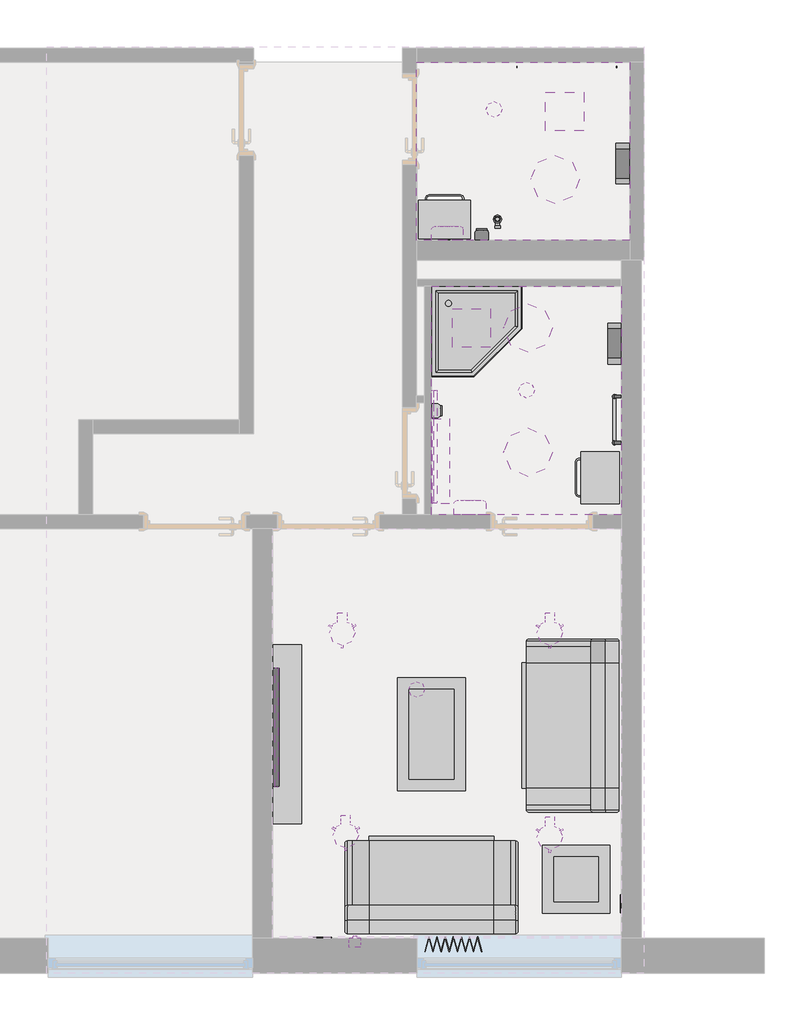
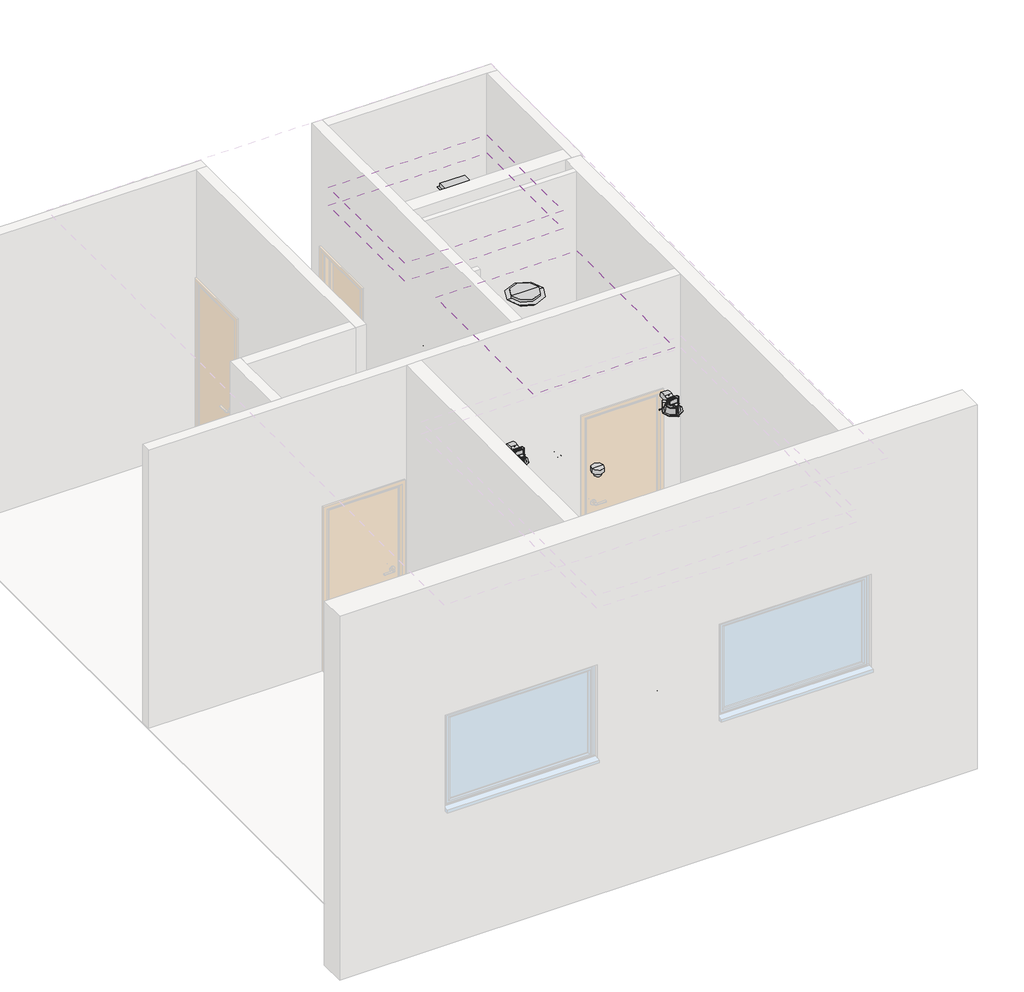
# One storey, part 2 of 2: 26 proxies, 14 furniture elements, 8 light fixtures, 3 alarms, 3 coverings, 2 air terminals, 2 flow terminals, 2 unitary equipment elements, 1 sanitary terminal.
"""IFC4 building model written with IfcOpenShell, lengths in millimetres."""

from ifc_helpers import new_model, si_unit, frame, origin, place, context, project, spatial, polyline, circle_curve, outline, extrude, transform, mapped, element, save
from ifc_brep_helpers import plane_surface, revolved_surface, advanced_brep
from components import exhaust_grille_rectangular_face_square_neck_hosted_standard_7c992ada, smoke_alarm_standard_44dbcd6f, mechanical_equipment_ce166965, bimhealth_electrical_double_socket_v1_type_1_da0f6ee8, bimhealth_electrical_double_socket_v1_type_1_73d2d995, pipe_connector_domestic_cold_water_plumbing_equipment_dafda2e2, plumbing_fixtures_mirror_1000x900mm_83a35165, proxy_deb00d23, type_1_a222ae80, type_3_23f395f6, flow_terminal_fd26ee67, flow_terminal_150_d_glass_shelf_1000_l_150_d_glass_shelf_b8576580, furniture_166ce8d1, furniture_26d36cfe, furniture_c009ef40, furniture_385b3342, furniture_87e55032, furniture_bce425b9, furniture_360x120x360_56d4da83, furniture_table_coffee_2_1000x600x600mm_77ff5865, furniture_table_coffee_2_600x600x600mm_3ebcfe62, light_fixture_298a29b3, light_fixture_790226d0, lighting_fixtures_uplight_strip_1000mm_length_2_8e9ee43d, type_1_79898fc5, unitary_equipment_84d95851, unitary_equipment_126x1500x700_0e61a479

model = new_model("IFC4")

# Units and contexts
model_context = context("Model", 3, world=origin())
ifc_project = project(units=[si_unit("LENGTHUNIT", "METRE", prefix="MILLI")], contexts=[model_context])

# Site, building, storey
site = spatial("IfcSite", under=ifc_project)
building = spatial("IfcBuilding", under=site)
storey = spatial("IfcBuildingStorey", under=building, Name="2-Proposed Alterations Plan", Elevation=0.0)

# Air terminals
placement = place(None, origin())
exhaust_grille_rectangular_face_square_neck_hosted_standard_shape = exhaust_grille_rectangular_face_square_neck_hosted_standard_7c992ada(model_context)
element("IfcAirTerminal", 1, ObjectType="Exhaust Grille - Rectangular Face Square Neck - Hosted : Standard", at=placement, inside=storey, context=model_context, shape_type="MappedRepresentation", body=[
    mapped(exhaust_grille_rectangular_face_square_neck_hosted_standard_shape, transform((8753.7880799, 11589.8737165, 2500.0), x_axis=(1.0, 0.0, 0.0), y_axis=(0.0, -1.0, 0.0), z_axis=(0.0, 0.0, -1.0))),
])
element("IfcAirTerminal", 2, ObjectType="Exhaust Grille - Rectangular Face Square Neck - Hosted : Standard", at=placement, inside=storey, context=model_context, shape_type="MappedRepresentation", body=[
    mapped(exhaust_grille_rectangular_face_square_neck_hosted_standard_shape, transform((7928.7880799, 9676.6237106, 2500.0), x_axis=(1.0, 0.0, 0.0), y_axis=(0.0, -1.0, 0.0), z_axis=(0.0, 0.0, -1.0))),
])

# Alarms
smoke_alarm_standard_shape = smoke_alarm_standard_44dbcd6f(model_context)
element("IfcAlarm", 3, ObjectType="Smoke Alarm : Standard", at=placement, inside=storey, context=model_context, shape_type="MappedRepresentation", body=[
    mapped(smoke_alarm_standard_shape, transform((8128.7880799, 11609.8737165, 2500.0), x_axis=(1.0, 0.0, 0.0), y_axis=(0.0, -1.0, 0.0), z_axis=(0.0, 0.0, -1.0))),
])
element("IfcAlarm", 4, ObjectType="Smoke Alarm : Standard", at=placement, inside=storey, context=model_context, shape_type="MappedRepresentation", body=[
    mapped(smoke_alarm_standard_shape, transform((8415.7880797, 9124.8737074, 2500.0), x_axis=(1.0, 0.0, 0.0), y_axis=(0.0, -1.0, 0.0), z_axis=(0.0, 0.0, -1.0))),
])
element("IfcAlarm", 5, ObjectType="Smoke Alarm : Standard", at=placement, inside=storey, context=model_context, shape_type="MappedRepresentation", body=[
    mapped(smoke_alarm_standard_shape, transform((7443.6565765, 6477.3736929, 2575.0), x_axis=(1.0, 0.0, 0.0), y_axis=(0.0, -1.0, 0.0), z_axis=(0.0, 0.0, -1.0))),
])

# Proxies
mechanical_equipment_shape = mechanical_equipment_ce166965(model_context)
element("IfcBuildingElementProxy", 6, Name="NBS_Hudevad_Tappings : TappingA", ObjectType="NBS_Hudevad_Tappings : TappingA", at=placement, inside=storey, context=model_context, shape_type="MappedRepresentation", body=[
    mapped(mechanical_equipment_shape, transform((6224.7880673, 5341.6433613, 650.0), x_axis=(-1.0000000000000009, 0.0, 0.0), y_axis=(0.0, 0.0, -1.0000000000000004), z_axis=(0.0, -1.0000000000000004, 0.0))),
])
element("IfcBuildingElementProxy", 7, Name="NBS_Hudevad_Tappings : TappingA", ObjectType="NBS_Hudevad_Tappings : TappingA", at=placement, inside=storey, context=model_context, shape_type="MappedRepresentation", body=[
    mapped(mechanical_equipment_shape, transform((8332.7947817, 11985.1950295, 549.1847589), x_axis=(0.0, 1.0, 0.0), y_axis=(0.0, 0.0, -1.0), z_axis=(-1.0, 0.0, 0.0))),
])
element("IfcBuildingElementProxy", 8, Name="NBS_Hudevad_Tappings : TappingB", ObjectType="NBS_Hudevad_Tappings : TappingB", at=placement, inside=storey, context=model_context, shape_type="MappedRepresentation", body=[
    mapped(mechanical_equipment_shape, transform((6224.7880673, 5341.6433613, 50.0), x_axis=(-1.0000000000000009, 0.0, 0.0), y_axis=(0.0, 0.0, -1.0000000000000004), z_axis=(0.0, -1.0000000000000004, 0.0))),
])
element("IfcBuildingElementProxy", 9, Name="NBS_Hudevad_Tappings : TappingB", ObjectType="NBS_Hudevad_Tappings : TappingB", at=placement, inside=storey, context=model_context, shape_type="MappedRepresentation", body=[
    mapped(mechanical_equipment_shape, transform((8332.7947817, 11984.7043073, 50.0080707), x_axis=(0.0, 1.0, 0.0), y_axis=(0.0, 0.0, -1.0), z_axis=(-1.0, 0.0, 0.0))),
])
element("IfcBuildingElementProxy", 10, Name="NBS_Hudevad_Tappings : TappingC", ObjectType="NBS_Hudevad_Tappings : TappingC", at=placement, inside=storey, context=model_context, shape_type="MappedRepresentation", body=[
    mapped(mechanical_equipment_shape, transform((6224.7880673, 6841.6433613, 650.0), x_axis=(-1.0000000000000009, 0.0, 0.0), y_axis=(0.0, 0.0, 1.0000000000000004), z_axis=(0.0, 1.0000000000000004, 0.0))),
])
element("IfcBuildingElementProxy", 11, Name="NBS_Hudevad_Tappings : TappingC", ObjectType="NBS_Hudevad_Tappings : TappingC", at=placement, inside=storey, context=model_context, shape_type="MappedRepresentation", body=[
    mapped(mechanical_equipment_shape, transform((9212.7947817, 11984.8414609, 549.6782708), x_axis=(0.0, 1.0, 0.0), y_axis=(0.0, 0.0, 1.0), z_axis=(1.0, 0.0, 0.0))),
])
element("IfcBuildingElementProxy", 12, Name="NBS_Hudevad_Tappings : TappingD", ObjectType="NBS_Hudevad_Tappings : TappingD", at=placement, inside=storey, context=model_context, shape_type="MappedRepresentation", body=[
    mapped(mechanical_equipment_shape, transform((6224.7880673, 6841.6433613, 50.0), x_axis=(-1.0000000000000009, 0.0, 0.0), y_axis=(0.0, 0.0, 1.0000000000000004), z_axis=(0.0, 1.0000000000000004, 0.0))),
])
element("IfcBuildingElementProxy", 13, Name="NBS_Hudevad_Tappings : TappingD", ObjectType="NBS_Hudevad_Tappings : TappingD", at=placement, inside=storey, context=model_context, shape_type="MappedRepresentation", body=[
    mapped(mechanical_equipment_shape, transform((9212.7947817, 11984.8414609, 49.3193784), x_axis=(0.0, 1.0, 0.0), y_axis=(0.0, 0.0, 1.0), z_axis=(1.0, 0.0, 0.0))),
])
element("IfcBuildingElementProxy", 14, Name="NBS_Hudevad_Tappings : TappingE", ObjectType="NBS_Hudevad_Tappings : TappingE", at=placement, inside=storey, context=model_context, shape_type="MappedRepresentation", body=[
    mapped(mechanical_equipment_shape, transform((6224.7880673, 5391.6433613, 0.0), x_axis=(0.0, -1.0000000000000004, 0.0), y_axis=(-1.0000000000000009, 0.0, 0.0), z_axis=(0.0, 0.0, -1.0000000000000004))),
])
element("IfcBuildingElementProxy", 15, Name="NBS_Hudevad_Tappings : TappingE", ObjectType="NBS_Hudevad_Tappings : TappingE", at=placement, inside=storey, context=model_context, shape_type="MappedRepresentation", body=[
    mapped(mechanical_equipment_shape, transform((8372.7947817, 11984.9237231, 0.0), x_axis=(-1.0, 0.0, 0.0), y_axis=(0.0, 1.0, 0.0), z_axis=(0.0, 0.0, -1.0))),
])
element("IfcBuildingElementProxy", 16, Name="NBS_Hudevad_Tappings : TappingE2", ObjectType="NBS_Hudevad_Tappings : TappingE2", at=placement, inside=storey, context=model_context, shape_type="MappedRepresentation", body=[
    mapped(mechanical_equipment_shape, transform((6224.7880673, 5441.6433613, 0.0), x_axis=(0.0, -1.0000000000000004, 0.0), y_axis=(-1.0000000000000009, 0.0, 0.0), z_axis=(0.0, 0.0, -1.0000000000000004))),
])
element("IfcBuildingElementProxy", 17, Name="NBS_Hudevad_Tappings : TappingE2", ObjectType="NBS_Hudevad_Tappings : TappingE2", at=placement, inside=storey, context=model_context, shape_type="MappedRepresentation", body=[
    mapped(mechanical_equipment_shape, transform((8422.7947817, 11984.9237231, 0.0), x_axis=(-1.0, 0.0, 0.0), y_axis=(0.0, 1.0, 0.0), z_axis=(0.0, 0.0, -1.0))),
])
element("IfcBuildingElementProxy", 18, Name="NBS_Hudevad_Tappings : TappingF", ObjectType="NBS_Hudevad_Tappings : TappingF", at=placement, inside=storey, context=model_context, shape_type="MappedRepresentation", body=[
    mapped(mechanical_equipment_shape, transform((6224.7880673, 5691.6433613, 0.0), x_axis=(0.0, -1.0000000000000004, 0.0), y_axis=(-1.0000000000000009, 0.0, 0.0), z_axis=(0.0, 0.0, -1.0000000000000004))),
])
element("IfcBuildingElementProxy", 19, Name="NBS_Hudevad_Tappings : TappingF", ObjectType="NBS_Hudevad_Tappings : TappingF", at=placement, inside=storey, context=model_context, shape_type="MappedRepresentation", body=[
    mapped(mechanical_equipment_shape, transform((9172.7947817, 11984.9237231, 0.0), x_axis=(-1.0, 0.0, 0.0), y_axis=(0.0, 1.0, 0.0), z_axis=(0.0, 0.0, -1.0))),
])
element("IfcBuildingElementProxy", 20, Name="NBS_Hudevad_Tappings : TappingF2", ObjectType="NBS_Hudevad_Tappings : TappingF2", at=placement, inside=storey, context=model_context, shape_type="MappedRepresentation", body=[
    mapped(mechanical_equipment_shape, transform((6224.7880673, 6741.6433613, 0.0), x_axis=(0.0, -1.0000000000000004, 0.0), y_axis=(-1.0000000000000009, 0.0, 0.0), z_axis=(0.0, 0.0, -1.0000000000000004))),
])
element("IfcBuildingElementProxy", 21, Name="NBS_Hudevad_Tappings : TappingF2", ObjectType="NBS_Hudevad_Tappings : TappingF2", at=placement, inside=storey, context=model_context, shape_type="MappedRepresentation", body=[
    mapped(mechanical_equipment_shape, transform((9122.7947817, 11984.9237231, 0.0), x_axis=(-1.0, 0.0, 0.0), y_axis=(0.0, 1.0, 0.0), z_axis=(0.0, 0.0, -1.0))),
])
bimhealth_electrical_double_socket_v1_type_1_shape = bimhealth_electrical_double_socket_v1_type_1_da0f6ee8(model_context)
element("IfcBuildingElementProxy", 22, Name="BIMHealth-Electrical-Double_Socket-v1 : Type 1", ObjectType="BIMHealth-Electrical-Double_Socket-v1 : Type 1", at=placement, inside=storey, context=model_context, shape_type="MappedRepresentation", body=[
    mapped(bimhealth_electrical_double_socket_v1_type_1_shape, transform((6079.2880673, 5999.8737074, 610.0), x_axis=(0.0, -1.0, 0.0), y_axis=(1.0, 0.0, 0.0), z_axis=(0.0, 0.0, 1.0))),
])
element("IfcBuildingElementProxy", 23, Name="BIMHealth-Electrical-Double_Socket-v1 : Type 1", ObjectType="BIMHealth-Electrical-Double_Socket-v1 : Type 1", at=placement, inside=storey, context=model_context, shape_type="MappedRepresentation", body=[
    mapped(bimhealth_electrical_double_socket_v1_type_1_shape, transform((6079.2880673, 6207.3736929, 605.0), x_axis=(0.0, -1.0, 0.0), y_axis=(1.0, 0.0, 0.0), z_axis=(0.0, 0.0, 1.0))),
])
bimhealth_electrical_double_socket_v1_type_1_2_shape = bimhealth_electrical_double_socket_v1_type_1_73d2d995(model_context)
element("IfcBuildingElementProxy", 24, Name="BIMHealth-Electrical-Double_Socket-v1 : Type 1", ObjectType="BIMHealth-Electrical-Double_Socket-v1 : Type 1", at=placement, inside=storey, context=model_context, shape_type="MappedRepresentation", body=[
    mapped(bimhealth_electrical_double_socket_v1_type_1_2_shape, transform((6406.7880673, 4122.3736929, 0.0), x_axis=(1.0, 0.0, 0.0), y_axis=(0.0, 1.0, 0.0), z_axis=(0.0, 0.0, 1.0))),
])
element("IfcBuildingElementProxy", 25, Name="BIMHealth-Electrical-Double_Socket-v1 : Type 1", ObjectType="BIMHealth-Electrical-Double_Socket-v1 : Type 1", at=placement, inside=storey, context=model_context, shape_type="MappedRepresentation", body=[
    mapped(bimhealth_electrical_double_socket_v1_type_1_shape, transform((9343.2880797, 4377.3736929, 0.0), x_axis=(0.0, 1.0, 0.0), y_axis=(-1.0, 0.0, 0.0), z_axis=(0.0, 0.0, 1.0))),
])
pipe_connector_domestic_cold_water_plumbing_equipment_shape = pipe_connector_domestic_cold_water_plumbing_equipment_dafda2e2(model_context)
element("IfcBuildingElementProxy", 26, Name="Pipe Connector - Domestic Cold Water - Plumbing Equipment : Standard", ObjectType="Pipe Connector - Domestic Cold Water - Plumbing Equipment : Standard", at=placement, inside=storey, context=model_context, shape_type="MappedRepresentation", body=[
    mapped(pipe_connector_domestic_cold_water_plumbing_equipment_shape, transform((7803.6565765, 10449.8737165, 200.0), x_axis=(-1.0, 0.0, 0.0), y_axis=(0.0, 0.0, 1.0), z_axis=(0.0, 1.0, 0.0))),
])
element("IfcBuildingElementProxy", 27, Name="Pipe Connector - Domestic Cold Water - Plumbing Equipment : Standard", ObjectType="Pipe Connector - Domestic Cold Water - Plumbing Equipment : Standard", at=placement, inside=storey, context=model_context, shape_type="MappedRepresentation", body=[
    mapped(pipe_connector_domestic_cold_water_plumbing_equipment_shape, transform((7723.6565765, 10449.8737165, 200.0), x_axis=(-1.0, 0.0, 0.0), y_axis=(0.0, 0.0, 1.0), z_axis=(0.0, 1.0, 0.0))),
])
plumbing_fixtures_mirror_1000x900mm_shape = plumbing_fixtures_mirror_1000x900mm_83a35165(model_context)
element("IfcBuildingElementProxy", 28, Name="Plumbing_Fixtures_Mirror : 1000x900mm", ObjectType="Plumbing_Fixtures_Mirror : 1000x900mm", at=placement, inside=storey, context=model_context, shape_type="MappedRepresentation", body=[
    mapped(plumbing_fixtures_mirror_1000x900mm_shape, transform((7543.6565765, 8600.4034064, 0.0), x_axis=(0.0, 1.0, 0.0), y_axis=(-1.0, 0.0, 0.0), z_axis=(0.0, 0.0, 1.0))),
])
proxy_shape = proxy_deb00d23(model_context)
element("IfcBuildingElementProxy", 29, Name="TV Screen wall mounted 32\":TV Screen wall mounted 32\":407438 : TV Screen wall mounted 32\":TV Screen wall mounted 32\":407438", ObjectType="TV Screen wall mounted 32\":TV Screen wall mounted 32\":407438 : TV Screen wall mounted 32\":TV Screen wall mounted 32\":407438", at=placement, inside=storey, context=model_context, shape_type="MappedRepresentation", body=[
    mapped(proxy_shape, transform((8.3311228, 259.8178839, 0.0), x_axis=(1.0, 0.0, 0.0), y_axis=(0.0, 1.0, 0.0), z_axis=(0.0, 0.0, 1.0))),
])
type_1_shape = type_1_a222ae80(model_context)
element("IfcBuildingElementProxy", 30, Name="BIMHealth-Electrical-Emergency_Button-LOD2A-v1 : Type 1", ObjectType="BIMHealth-Electrical-Emergency_Button-LOD2A-v1 : Type 1", at=placement, inside=storey, context=model_context, shape_type="MappedRepresentation", body=[
    mapped(type_1_shape, transform((6770.7880797, 4122.3736929, 0.0), x_axis=(1.0, 0.0, 0.0), y_axis=(0.0, 1.0, 0.0), z_axis=(0.0, 0.0, 1.0))),
])
type_3_shape = type_3_23f395f6(model_context)
element("IfcBuildingElementProxy", 31, Name="BHMS-Bed_Head_Services-LOD2A-v1.0001 : Type 3", ObjectType="BHMS-Bed_Head_Services-LOD2A-v1.0001 : Type 3", at=placement, inside=storey, context=model_context, shape_type="MappedRepresentation", body=[
    mapped(type_3_shape, transform((6079.2880673, 3933.6070272, -145.0), x_axis=(0.0, -1.0, 0.0), y_axis=(1.0, 0.0, 0.0), z_axis=(0.0, 0.0, 1.0))),
])

# Coverings
element("IfcCovering", 32, ObjectType="Asbestos Ceiling Tiles", at=placement, inside=storey, context=model_context, shape_type="SweptSolid", body=[
    extrude(outline(polyline([(9328.7880799, 10449.8737165), (7443.6565765, 10449.8737165), (7443.6565765, 12027.8737231), (9328.7880799, 12027.8737231), (9328.7880799, 10449.8737165)])), frame((0.0, 0.0, 2727.0), z_axis=(0.0, 0.0, 1.0), x_axis=(1.0, 0.0, 0.0)), (0.0, 0.0, 1.0), 57.0),
])
element("IfcCovering", 33, ObjectType="600x600mm_Grid", at=placement, inside=storey, context=model_context, shape_type="AdvancedBrep", body=[
    advanced_brep(
    [(9328.7880799, 12027.8737231, 2552.0), (7443.6565765, 12027.8737231, 2552.0), (7443.6565765, 10449.8737165, 2552.0), (9328.7880799, 10449.8737165, 2552.0), (7443.6565765, 12027.8737231, 2500.0), (9328.7880799, 12027.8737231, 2500.0), (9328.7880799, 10449.8737165, 2500.0), (7443.6565765, 10449.8737165, 2500.0), (7649.7873196, 11349.8732953, 2500.0), (7607.7873196, 11349.8732953, 2500.0), (7607.7873196, 11349.8732953, 2536.0), (7649.7873196, 11349.8732953, 2536.0)],
    [
        (0, 1),
        (1, 2),
        (2, 3),
        (3, 0),
        (4, 5),
        (5, 6),
        (6, 7),
        (7, 4),
        (8, 9, circle_curve(frame((7628.7873196, 11349.8732953, 2500.0), z_axis=(0.0, 0.0, 1.0), x_axis=(1.0, 0.0, 0.0)), 21.0)),
        (9, 8, circle_curve(frame((7628.7873196, 11349.8732953, 2500.0), z_axis=(0.0, 0.0, 1.0), x_axis=(1.0, 0.0, 0.0)), 21.0)),
        (0, 5),
        (4, 1),
        (7, 2),
        (6, 3),
        (10, 11, circle_curve(frame((7628.7873196, 11349.8732953, 2536.0), z_axis=(0.0, 0.0, -1.0), x_axis=(1.0, 0.0, 0.0)), 21.0)),
        (11, 10, circle_curve(frame((7628.7873196, 11349.8732953, 2536.0), z_axis=(0.0, 0.0, -1.0), x_axis=(1.0, 0.0, 0.0)), 21.0)),
        (10, 9),
        (8, 11),
    ],
    [
        plane_surface(frame((7443.6565765, 12027.8737231, 2552.0), z_axis=(0.0, 0.0, 1.0), x_axis=(-1.0, 0.0, 0.0))),
        plane_surface(frame((7443.6565765, 12027.8737231, 2500.0), z_axis=(0.0, 0.0, -1.0), x_axis=(1.0, 0.0, 0.0))),
        plane_surface(frame((9328.7880799, 12027.8737231, 2552.0), z_axis=(0.0, 1.0, 0.0), x_axis=(0.0, 0.0, -1.0))),
        plane_surface(frame((7443.6565765, 12027.8737231, 2552.0), z_axis=(-1.0, 0.0, 0.0), x_axis=(0.0, 0.0, -1.0))),
        plane_surface(frame((7443.6565765, 10449.8737165, 2552.0), z_axis=(0.0, -1.0, 0.0), x_axis=(0.0, 0.0, -1.0))),
        plane_surface(frame((9328.7880799, 10449.8737165, 2552.0), z_axis=(1.0, 0.0, 0.0), x_axis=(0.0, 0.0, -1.0))),
        plane_surface(frame((7649.7873196, 11349.8732953, 2536.0), z_axis=(0.0, 0.0, -1.0), x_axis=(0.0, 1.0, 0.0))),
        revolved_surface(polyline([(7649.7873196, 11349.8732953, 2500.0), (7649.7873196, 11349.8732953, 2536.0)]), (7628.7873196, 11349.8732953, 2536.0), (0.0, 0.0, -1.0)),
    ],
    [
        (0, [[1, 2, 3, 4]]),
        (1, [[5, 6, 7, 8], [9, 10]]),
        (2, [[-1, 11, -5, 12]]),
        (3, [[-2, -12, -8, 13]]),
        (4, [[-3, -13, -7, 14]]),
        (5, [[-4, -14, -6, -11]]),
        (6, [[15, 16]]),
        (7, [[-15, 17, -9, 18]]),
        (7, [[-16, -18, -10, -17]]),
    ],
),
])
element("IfcCovering", 34, ObjectType="Plain", at=placement, inside=storey, context=model_context, shape_type="AdvancedBrep", body=[
    advanced_brep(
    [(9255.7880797, 10043.6237165, 2557.0), (7574.9065765, 10043.6237165, 2557.0), (7574.9065765, 8024.8737074, 2557.0), (9255.7880797, 8024.8737074, 2557.0), (7574.9065765, 10043.6237165, 2500.0), (9255.7880797, 10043.6237165, 2500.0), (9255.7880797, 8024.8737074, 2500.0), (7574.9065765, 8024.8737074, 2500.0), (8435.8958993, 8121.9862129, 2500.0), (8393.8958993, 8121.9862129, 2500.0), (8393.8958993, 8121.9862129, 2536.0), (8435.8958993, 8121.9862129, 2536.0)],
    [
        (0, 1),
        (1, 2),
        (2, 3),
        (3, 0),
        (4, 5),
        (5, 6),
        (6, 7),
        (7, 4),
        (8, 9, circle_curve(frame((8414.8958993, 8121.9862129, 2500.0), z_axis=(0.0, 0.0, 1.0), x_axis=(1.0, 0.0, 0.0)), 21.0)),
        (9, 8, circle_curve(frame((8414.8958993, 8121.9862129, 2500.0), z_axis=(0.0, 0.0, 1.0), x_axis=(1.0, 0.0, 0.0)), 21.0)),
        (0, 5),
        (4, 1),
        (7, 2),
        (6, 3),
        (10, 11, circle_curve(frame((8414.8958993, 8121.9862129, 2536.0), z_axis=(0.0, 0.0, -1.0), x_axis=(1.0, 0.0, 0.0)), 21.0)),
        (11, 10, circle_curve(frame((8414.8958993, 8121.9862129, 2536.0), z_axis=(0.0, 0.0, -1.0), x_axis=(1.0, 0.0, 0.0)), 21.0)),
        (10, 9),
        (8, 11),
    ],
    [
        plane_surface(frame((7381.1565765, 10043.6237165, 2557.0), z_axis=(0.0, 0.0, 1.0), x_axis=(-1.0, 0.0, 0.0))),
        plane_surface(frame((7381.1565765, 10043.6237165, 2500.0), z_axis=(0.0, 0.0, -1.0), x_axis=(1.0, 0.0, 0.0))),
        plane_surface(frame((9255.7880797, 10043.6237165, 2557.0), z_axis=(0.0, 1.0, 0.0), x_axis=(0.0, 0.0, -1.0))),
        plane_surface(frame((7574.9065765, 10043.6237165, 2557.0), z_axis=(-1.0, 0.0, 0.0), x_axis=(0.0, 0.0, -1.0))),
        plane_surface(frame((7574.9065765, 8024.8737074, 2557.0), z_axis=(0.0, -1.0, 0.0), x_axis=(0.0, 0.0, -1.0))),
        plane_surface(frame((9255.7880797, 8024.8737074, 2557.0), z_axis=(1.0, 0.0, 0.0), x_axis=(0.0, 0.0, -1.0))),
        plane_surface(frame((8435.8958993, 8121.9862129, 2536.0), z_axis=(0.0, 0.0, -1.0), x_axis=(0.0, 1.0, 0.0))),
        revolved_surface(polyline([(8435.8958993, 8121.9862129, 2500.0), (8435.8958993, 8121.9862129, 2536.0)]), (8414.8958993, 8121.9862129, 2536.0), (0.0, 0.0, -1.0)),
    ],
    [
        (0, [[1, 2, 3, 4]]),
        (1, [[5, 6, 7, 8], [9, 10]]),
        (2, [[-1, 11, -5, 12]]),
        (3, [[-2, -12, -8, 13]]),
        (4, [[-3, -13, -7, 14]]),
        (5, [[-4, -14, -6, -11]]),
        (6, [[15, 16]]),
        (7, [[-15, 17, -9, 18]]),
        (7, [[-16, -18, -10, -17]]),
    ],
),
])

# Flow terminals
flow_terminal_shape = flow_terminal_fd26ee67(model_context)
element("IfcFlowTerminal", 35, ObjectType="ASH_BottleTrap_MultiProduct_BIM_GB_S8910;S8920 : S892067 Trap 1¼\" plastic resealing bottle, 75mm seal, multi-purpose outlet", at=placement, inside=storey, context=model_context, shape_type="MappedRepresentation", body=[
    mapped(flow_terminal_shape, transform((8159.5640842, 10639.8737165, 625.0), x_axis=(-1.0, 0.0, 0.0), y_axis=(0.0, 1.0, 0.0), z_axis=(0.0, 0.0, -1.0))),
])
flow_terminal_150_d_glass_shelf_1000_l_150_d_glass_shelf_shape = flow_terminal_150_d_glass_shelf_1000_l_150_d_glass_shelf_b8576580(model_context)
element("IfcFlowTerminal", 36, ObjectType="150 d glass shelf 1000 L : 150 d glass shelf 1000 L", at=placement, inside=storey, context=model_context, shape_type="MappedRepresentation", body=[
    mapped(flow_terminal_150_d_glass_shelf_1000_l_150_d_glass_shelf_shape, transform((0.0, 0.0, 0.0), x_axis=(1.0, 0.0, 0.0), y_axis=(0.0, 1.0, 0.0), z_axis=(0.0, 0.0, 1.0))),
])

# Furniture
furniture_shape = furniture_166ce8d1(model_context)
element("IfcFurniture", 37, ObjectType="BIMHealth-Paper_Towel_Dispenser-LOD2A-v1 : BIMHealth-Paper_Towel_Dispenser-LOD2A-v1", at=placement, inside=storey, context=model_context, shape_type="MappedRepresentation", body=[
    mapped(furniture_shape, transform((7854.9065765, 10449.8737165, 100.0), x_axis=(-1.0000000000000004, 0.0, 0.0), y_axis=(0.0, -1.0000000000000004, 0.0), z_axis=(0.0, 0.0, 1.0))),
])
element("IfcFurniture", 38, ObjectType="BIMHealth-Paper_Towel_Dispenser-LOD2A-v1 : BIMHealth-Paper_Towel_Dispenser-LOD2A-v1", at=placement, inside=storey, context=model_context, shape_type="MappedRepresentation", body=[
    mapped(furniture_shape, transform((8054.9065765, 8024.8737074, 100.0), x_axis=(-1.0000000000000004, 0.0, 0.0), y_axis=(0.0, -1.0000000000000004, 0.0), z_axis=(0.0, 0.0, 1.0))),
])
furniture_2_shape = furniture_26d36cfe(model_context)
element("IfcFurniture", 39, ObjectType="BIMHealth-Soap_Dispenser-LOD2A-v1 : BIMHealth-Soap_Dispenser-LOD2A-v1", at=placement, inside=storey, context=model_context, shape_type="MappedRepresentation", body=[
    mapped(furniture_2_shape, transform((8079.5640842, 10449.8737165, -200.0), x_axis=(-1.0, 0.0, 0.0), y_axis=(0.0, -1.0, 0.0), z_axis=(0.0, 0.0, 1.0))),
])
element("IfcFurniture", 40, ObjectType="BIMHealth-Soap_Dispenser-LOD2A-v1 : BIMHealth-Soap_Dispenser-LOD2A-v1", at=placement, inside=storey, context=model_context, shape_type="MappedRepresentation", body=[
    mapped(furniture_2_shape, transform((7562.4065765, 8883.6237165, -230.0), x_axis=(0.0, 1.0, 0.0), y_axis=(-1.0, 0.0, 0.0), z_axis=(0.0, 0.0, 1.0))),
])
furniture_3_shape = furniture_c009ef40(model_context)
element("IfcFurniture", 41, ObjectType="BIMHealth-Bin_Clinical_Foot_Operated-LOD2A-v1:BIMHealth-Bin_Clinical_Foot_Operated-LOD2A-v1:404955 : BIMHealth-Bin_Clinical_Foot_Operated-LOD2A-v1:BIMHealth-Bin_Clinical_Foot_Operated-LOD2A-v1:404955", at=placement, inside=storey, context=model_context, shape_type="MappedRepresentation", body=[
    mapped(furniture_3_shape, transform((18451.6068057, 2984.6546371, 0.0), x_axis=(0.0, 1.0, 0.0), y_axis=(-1.0, 0.0, 0.0), z_axis=(0.0, 0.0, 1.0))),
])
element("IfcFurniture", 42, ObjectType="BIMHealth-Bin_Clinical_Foot_Operated-LOD2A-v1:BIMHealth-Bin_Clinical_Foot_Operated-LOD2A-v1:1 : BIMHealth-Bin_Clinical_Foot_Operated-LOD2A-v1:BIMHealth-Bin_Clinical_Foot_Operated-LOD2A-v1:404955", at=placement, inside=storey, context=model_context, shape_type="MappedRepresentation", body=[
    mapped(furniture_3_shape, transform((16716.9206845, 19112.5330763, 0.0), x_axis=(-1.0000000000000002, 0.0, 0.0), y_axis=(0.0, -1.0000000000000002, 0.0), z_axis=(0.0, 0.0, 1.0))),
])
furniture_4_shape = furniture_385b3342(model_context)
element("IfcFurniture", 43, ObjectType="NBS_PineappleContracts_DmstcChrs_Magna2SeaterSofa : NBS_PineappleContracts_DomesticChairs_Magna2SeaterSofa", at=placement, inside=storey, context=model_context, shape_type="MappedRepresentation", body=[
    mapped(furniture_4_shape, transform((8375.7880797, 6157.3736929, 0.0), x_axis=(0.0, -1.0000000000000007, 0.0), y_axis=(1.0000000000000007, 0.0, 0.0), z_axis=(0.0, 0.0, 1.0))),
])
element("IfcFurniture", 44, ObjectType="NBS_PineappleContracts_DmstcChrs_Magna2SeaterSofa : NBS_PineappleContracts_DomesticChairs_Magna2SeaterSofa", at=placement, inside=storey, context=model_context, shape_type="MappedRepresentation", body=[
    mapped(furniture_4_shape, transform((7574.9065765, 5177.3736929, 0.0), x_axis=(-1.0000000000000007, 0.0, 0.0), y_axis=(0.0, -1.0000000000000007, 0.0), z_axis=(0.0, 0.0, 1.0))),
])
furniture_5_shape = furniture_87e55032(model_context)
element("IfcFurniture", 45, ObjectType="Rad timber cover : Rad timber cover", at=placement, inside=storey, context=model_context, shape_type="MappedRepresentation", body=[
    mapped(furniture_5_shape, transform((0.0, 0.0, 0.0), x_axis=(1.0, 0.0, 0.0), y_axis=(0.0, 1.0, 0.0), z_axis=(0.0, 0.0, 1.0))),
])
furniture_6_shape = furniture_bce425b9(model_context)
element("IfcFurniture", 46, ObjectType="BIMHealth-Curtain_Bed-LOD2A-v1 : BIMHealth-Curtain_Bed-LOD2A-v1", at=placement, inside=storey, context=model_context, shape_type="MappedRepresentation", body=[
    mapped(furniture_6_shape, transform((7515.7880797, 4201.3736929, 960.0), x_axis=(1.0, 0.0, 0.0), y_axis=(0.0, 1.0, 0.0), z_axis=(0.0, 0.0, 1.0))),
])
furniture_360x120x360_shape = furniture_360x120x360_56d4da83(model_context)
element("IfcFurniture", 47, ObjectType="nbl_SanitaryAccessory_Dispenser-Toilet-Roll-Large-1.1 : 360x120x360", at=placement, inside=storey, context=model_context, shape_type="MappedRepresentation", body=[
    mapped(furniture_360x120x360_shape, transform((9268.7880799, 11131.8737165, 0.0), x_axis=(0.0, -1.0000000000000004, 0.0), y_axis=(1.0000000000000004, 0.0, 0.0), z_axis=(0.0, 0.0, 1.0))),
])
element("IfcFurniture", 48, ObjectType="nbl_SanitaryAccessory_Dispenser-Toilet-Roll-Large-1.1 : 360x120x360", at=placement, inside=storey, context=model_context, shape_type="MappedRepresentation", body=[
    mapped(furniture_360x120x360_shape, transform((9195.7880797, 9536.6237106, 0.0), x_axis=(0.0, -1.0, 0.0), y_axis=(1.0, 0.0, 0.0), z_axis=(0.0, 0.0, 1.0))),
])
furniture_table_coffee_2_1000x600x600mm_shape = furniture_table_coffee_2_1000x600x600mm_77ff5865(model_context)
element("IfcFurniture", 49, ObjectType="Furniture_Table_Coffee_2 : 1000x600x600mm", at=placement, inside=storey, context=model_context, shape_type="MappedRepresentation", body=[
    mapped(furniture_table_coffee_2_1000x600x600mm_shape, transform((7670.1176543, 6061.6079408, 0.0), x_axis=(0.0, 1.0, 0.0), y_axis=(-1.0, 0.0, 0.0), z_axis=(0.0, 0.0, 1.0))),
])
furniture_table_coffee_2_600x600x600mm_shape = furniture_table_coffee_2_600x600x600mm_3ebcfe62(model_context)
element("IfcFurniture", 50, ObjectType="Furniture_Table_Coffee_2 : 600x600x600mm", at=placement, inside=storey, context=model_context, shape_type="MappedRepresentation", body=[
    mapped(furniture_table_coffee_2_600x600x600mm_shape, transform((8837.522313, 4704.6626296, 0.0), x_axis=(1.0, 0.0, 0.0), y_axis=(0.0, 1.0, 0.0), z_axis=(0.0, 0.0, 1.0))),
])

# Light fixtures
light_fixture_shape = light_fixture_298a29b3(model_context)
element("IfcLightFixture", 51, ObjectType="Comtec LED : Comtec LED", at=placement, inside=storey, context=model_context, shape_type="MappedRepresentation", body=[
    mapped(light_fixture_shape, transform((6785.2926871, 6977.3736929, 2575.0), x_axis=(1.0, 0.0, 0.0), y_axis=(0.0, -1.0, 0.0), z_axis=(0.0, 0.0, -1.0))),
])
element("IfcLightFixture", 52, ObjectType="Comtec LED : Comtec LED", at=placement, inside=storey, context=model_context, shape_type="MappedRepresentation", body=[
    mapped(light_fixture_shape, transform((8622.7740581, 5169.8138539, 2575.0), x_axis=(1.0, 0.0, 0.0), y_axis=(0.0, -1.0, 0.0), z_axis=(0.0, 0.0, -1.0))),
])
element("IfcLightFixture", 53, ObjectType="Comtec LED : Comtec LED", at=placement, inside=storey, context=model_context, shape_type="MappedRepresentation", body=[
    mapped(light_fixture_shape, transform((8622.7740581, 6977.3736929, 2575.0), x_axis=(1.0, 0.0, 0.0), y_axis=(0.0, -1.0, 0.0), z_axis=(0.0, 0.0, -1.0))),
])
element("IfcLightFixture", 54, ObjectType="Comtec LED : Comtec LED", at=placement, inside=storey, context=model_context, shape_type="MappedRepresentation", body=[
    mapped(light_fixture_shape, transform((6815.799905, 5186.6525362, 2575.0), x_axis=(1.0, 0.0, 0.0), y_axis=(0.0, -1.0, 0.0), z_axis=(0.0, 0.0, -1.0))),
])
light_fixture_2_shape = light_fixture_790226d0(model_context)
element("IfcLightFixture", 55, ObjectType="AMED HALO : AMEDH128 HF", at=placement, inside=storey, context=model_context, shape_type="MappedRepresentation", body=[
    mapped(light_fixture_2_shape, transform((8668.7880799, 10989.8737165, 2500.0), x_axis=(1.0, 0.0, 0.0), y_axis=(0.0, -1.0, 0.0), z_axis=(0.0, 0.0, -1.0))),
])
element("IfcLightFixture", 56, ObjectType="AMED HALO : AMEDH128 HF", at=placement, inside=storey, context=model_context, shape_type="MappedRepresentation", body=[
    mapped(light_fixture_2_shape, transform((8428.7880799, 8576.6237106, 2500.0), x_axis=(1.0, 0.0, 0.0), y_axis=(0.0, -1.0, 0.0), z_axis=(0.0, 0.0, -1.0))),
])
element("IfcLightFixture", 57, ObjectType="AMED HALO : AMEDH128 HF", at=placement, inside=storey, context=model_context, shape_type="MappedRepresentation", body=[
    mapped(light_fixture_2_shape, transform((8428.7880799, 9676.5938002, 2500.0), x_axis=(1.0, 0.0, 0.0), y_axis=(0.0, -1.0, 0.0), z_axis=(0.0, 0.0, -1.0))),
])
lighting_fixtures_uplight_strip_1000mm_length_2_shape = lighting_fixtures_uplight_strip_1000mm_length_2_8e9ee43d(model_context)
element("IfcLightFixture", 58, ObjectType="Lighting_Fixtures_Uplight_Strip : 1000mm_Length 2", at=placement, inside=storey, context=model_context, shape_type="MappedRepresentation", body=[
    mapped(lighting_fixtures_uplight_strip_1000mm_length_2_shape, transform((7608.6565765, 8622.8737231, 102.0), x_axis=(0.0, 1.0000000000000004, 0.0), y_axis=(-1.0000000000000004, 0.0, 0.0), z_axis=(0.0, 0.0, 1.0))),
])

# Sanitary terminal
type_1_2_shape = type_1_79898fc5(model_context)
element("IfcSanitaryTerminal", 59, ObjectType="nbl_Shower_Pntngl-1.1 : Type 1", at=placement, inside=storey, context=model_context, shape_type="MappedRepresentation", body=[
    mapped(type_1_2_shape, transform((7974.9065765, 9643.6237165, 0.0), x_axis=(1.0, 0.0, 0.0), y_axis=(0.0, 1.0, 0.0), z_axis=(0.0, 0.0, 1.0))),
])

# Unitary equipment
unitary_equipment_shape = unitary_equipment_84d95851(model_context)
element("IfcUnitaryEquipment", 60, ObjectType="nbl_HeatedTowelRailElectric : nbl_HeatedTowelRailElectric", at=placement, inside=storey, context=model_context, shape_type="MappedRepresentation", body=[
    mapped(unitary_equipment_shape, transform((9195.7880797, 8865.3737106, 750.0), x_axis=(0.0, -1.0000000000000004, 0.0), y_axis=(1.0000000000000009, 0.0, 0.0), z_axis=(0.0, 0.0, 1.0000000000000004))),
])
unitary_equipment_126x1500x700_shape = unitary_equipment_126x1500x700_0e61a479(model_context)
element("IfcUnitaryEquipment", 61, ObjectType="NBS_Hudevad_Rdtrs_PlanDouble : 126x1500x700", at=placement, inside=storey, context=model_context, shape_type="MappedRepresentation", body=[
    mapped(unitary_equipment_126x1500x700_shape, transform((6166.7880673, 5341.6433613, 0.0), x_axis=(0.0, 1.0000000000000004, 0.0), y_axis=(-1.0000000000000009, 0.0, 0.0), z_axis=(0.0, 0.0, 1.0000000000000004))),
])

save(model, "model.ifc")
